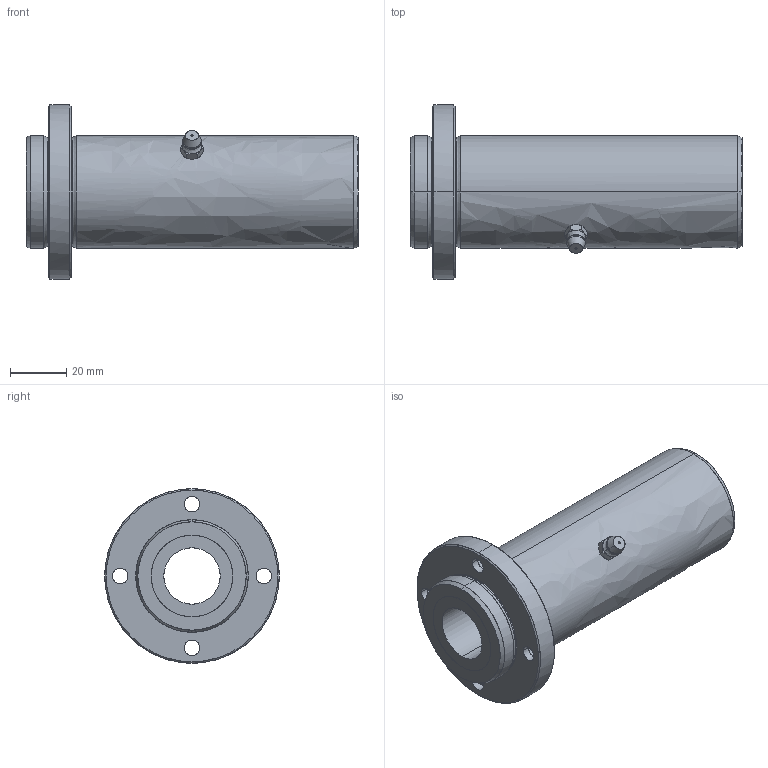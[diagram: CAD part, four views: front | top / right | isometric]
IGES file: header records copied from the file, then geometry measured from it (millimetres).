
Global section: file name: No Iges File Name specified; native system: AutoDesk Inventor R10; preprocessor: AutoDesk Inventor Iges Exporter R10; author: No Author specified; organization: No Organization specified; date: 20101211.162528; units: millimetre
Bounding box: 118 x 62 x 62 mm (x, y, z)
Surface area: 28867.6 mm2 (no closed solid volume)
Topology: 0 solids, 0 shells, 92 faces, 608 edges, 606 vertices
Faces by surface type: bspline 92
